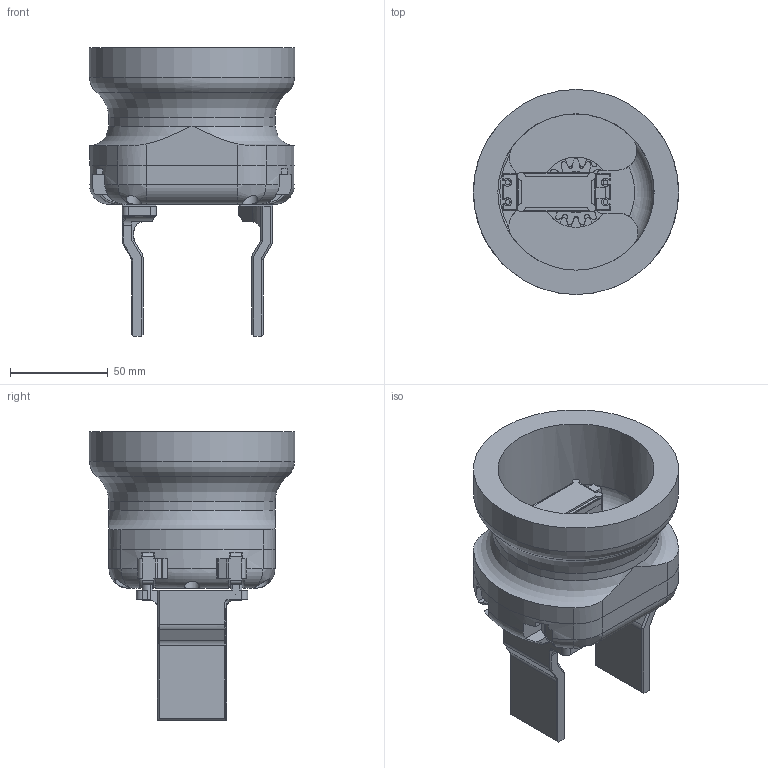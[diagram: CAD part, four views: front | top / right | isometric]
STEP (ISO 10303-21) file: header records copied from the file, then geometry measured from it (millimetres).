
FILE_DESCRIPTION(/* description */ (''),/* implementation_level */ '2;1');
FILE_NAME(/* name */ 'Assieme_pinza_dita_parallele.stp',/* time_stamp */ '2024-11-09T21:49:31+01:00',/* author */ ('R5800u'),/* organization */ (''),/* preprocessor_version */ 'ST-DEVELOPER v20',/* originating_system */ 'Autodesk Inventor 2025',/* authorisation */ '');
FILE_SCHEMA (('AUTOMOTIVE_DESIGN { 1 0 10303 214 3 1 1 }'));
Length unit declared in the file: millimetre
Products named in the file (11): Assieme3; pignone; cremagliera; disco2; Servo_20kg; blocco_griffe; D-A03-ASM_DOIGTS_PARALLELES-1^ROBOTIQ_HAND-E_DEFEATURE; AS 1420 - 1973 - M3 x 14; corpo; AS 1420 - 1973 - M3 x 16; AS 1420 - 1973 - M3 x 20
Assembly tree (20 placements, depth 2):
  Assieme3
    cremagliera  x2
    pignone
    disco2
    Servo_20kg
    blocco_griffe
    D-A03-ASM_DOIGTS_PARALLELES-1^ROBOTIQ_HAND-E_DEFEATURE  x2
    AS 1420 - 1973 - M3 x 14  x4
    corpo
    AS 1420 - 1973 - M3 x 16
    AS 1420 - 1973 - M3 x 20  x6
Bounding box: 105 x 105 x 147.5 mm (x, y, z)
Volume: 332461.4 mm3; surface area: 113908 mm2
Topology: 20 solids, 20 shells, 1174 faces, 3221 edges, 2094 vertices
Faces by surface type: plane 552, cylinder 455, bspline 74, torus 48, cone 35, sphere 10
Full cylindrical faces by diameter (mm): 2 x1, 2.5 x4, 2.6 x4, 2.8 x8, 3 x12, 3.4 x17, 5.5 x11, 6 x4, 7.495 x1, 8 x8, 19.8 x1, 21 x1, 36 x1, 80 x1, 85 x1, 105 x1
Entity records: 36865 total; most frequent: CARTESIAN_POINT 12751, ORIENTED_EDGE 5016, DIRECTION 4882, EDGE_CURVE 2508, AXIS2_PLACEMENT_3D 1733, VERTEX_POINT 1635, LINE 1416, VECTOR 1416
